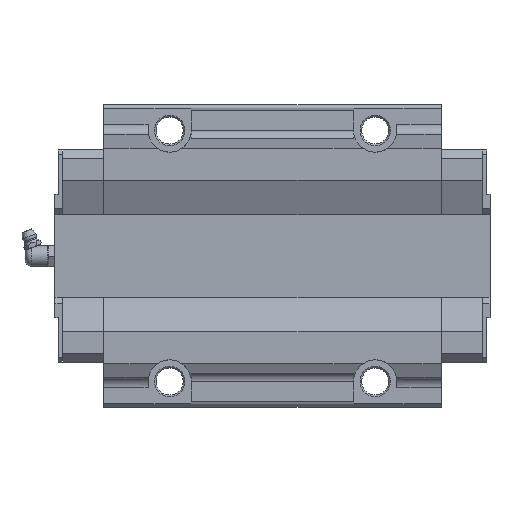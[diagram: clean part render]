
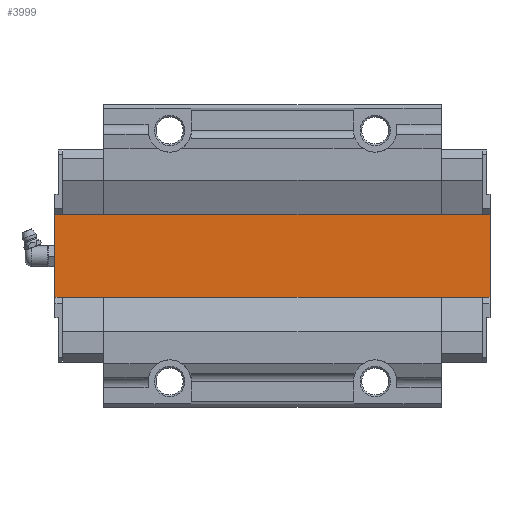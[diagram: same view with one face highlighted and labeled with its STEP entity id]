
A CAD part, front view. The second image highlights one B-rep face of the part: STEP entity #3999.
In plain terms, the highlighted planar face has unit normal (0, -1, 0).
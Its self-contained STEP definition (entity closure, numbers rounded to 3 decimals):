
#1101=ORIENTED_EDGE('',*,*,#1590,.F.);
#1102=ORIENTED_EDGE('',*,*,#1815,.F.);
#1103=ORIENTED_EDGE('',*,*,#1621,.T.);
#1104=ORIENTED_EDGE('',*,*,#1816,.T.);
#1590=EDGE_CURVE('',#2098,#2099,#2517,.T.);
#1621=EDGE_CURVE('',#2127,#2126,#2544,.T.);
#1815=EDGE_CURVE('',#2127,#2098,#2674,.T.);
#1816=EDGE_CURVE('',#2126,#2099,#2675,.T.);
#2098=VERTEX_POINT('',#5988);
#2099=VERTEX_POINT('',#5990);
#2126=VERTEX_POINT('',#6048);
#2127=VERTEX_POINT('',#6050);
#2517=LINE('',#5989,#2941);
#2544=LINE('',#6049,#2968);
#2674=LINE('',#6480,#3098);
#2675=LINE('',#6482,#3099);
#2941=VECTOR('',#4770,1000.);
#2968=VECTOR('',#4807,1000.);
#3098=VECTOR('',#5273,1000.);
#3099=VECTOR('',#5276,1000.);
#3312=EDGE_LOOP('',(#1101,#1102,#1103,#1104));
#3587=FACE_BOUND('',#3312,.T.);
#3800=PLANE('',#4322);
#3999=ADVANCED_FACE('',(#3587),#3800,.T.);
#4322=AXIS2_PLACEMENT_3D('',#6481,#5274,#5275);
#4770=DIRECTION('',(0.,0.,1.));
#4807=DIRECTION('',(0.,0.,1.));
#5273=DIRECTION('',(-1.,0.,0.));
#5274=DIRECTION('',(0.,-1.,0.));
#5275=DIRECTION('',(0.,0.,-1.));
#5276=DIRECTION('',(-1.,0.,0.));
#5988=CARTESIAN_POINT('',(-100.55,31.,-20.998));
#5989=CARTESIAN_POINT('',(-100.55,31.,-20.998));
#5990=CARTESIAN_POINT('',(-100.55,31.,20.998));
#6048=CARTESIAN_POINT('',(100.55,31.,20.998));
#6049=CARTESIAN_POINT('',(100.55,31.,-20.998));
#6050=CARTESIAN_POINT('',(100.55,31.,-20.998));
#6480=CARTESIAN_POINT('',(100.55,31.,-20.998));
#6481=CARTESIAN_POINT('',(100.55,31.,-20.998));
#6482=CARTESIAN_POINT('',(100.55,31.,20.998));
